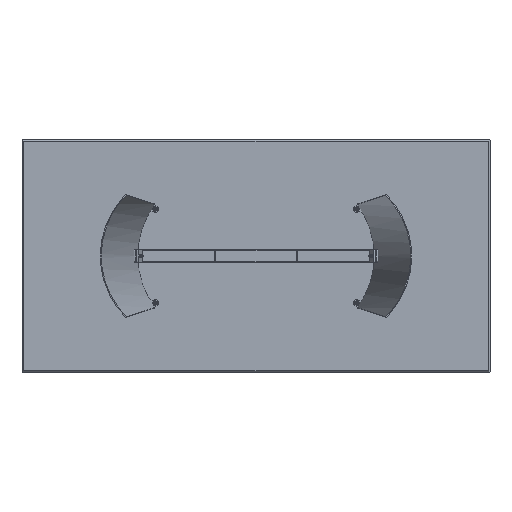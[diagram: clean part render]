
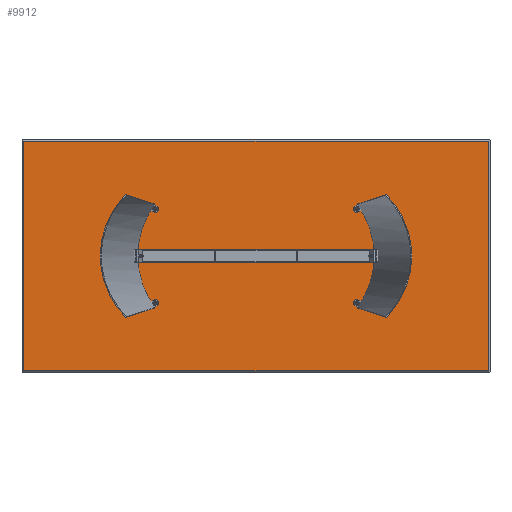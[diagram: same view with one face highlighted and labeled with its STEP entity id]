
A CAD part, front view. The second image highlights one B-rep face of the part: STEP entity #9912.
In plain terms, the highlighted planar face has unit normal (0, -1, 0).
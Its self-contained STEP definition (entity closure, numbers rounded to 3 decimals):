
#13 = VECTOR ( 'NONE', #6041, 1000. ) ;
#367 = LINE ( 'NONE', #7585, #8294 ) ;
#638 = LINE ( 'NONE', #2193, #8097 ) ;
#703 = EDGE_CURVE ( 'NONE', #9708, #7427, #367, .T. ) ;
#1024 = LINE ( 'NONE', #10224, #13 ) ;
#1065 = DIRECTION ( 'NONE',  ( 1., 0., 0. ) ) ;
#1437 = EDGE_CURVE ( 'NONE', #8087, #9708, #1024, .T. ) ;
#1741 = DIRECTION ( 'NONE',  ( 0., 1., 0. ) ) ;
#1758 = EDGE_CURVE ( 'NONE', #7427, #4459, #638, .T. ) ;
#1828 = CARTESIAN_POINT ( 'NONE',  ( -1187., 0., 587. ) ) ;
#1841 = FACE_OUTER_BOUND ( 'NONE', #10243, .T. ) ;
#2193 = CARTESIAN_POINT ( 'NONE',  ( 1187., 0., 0. ) ) ;
#2374 = ORIENTED_EDGE ( 'NONE', *, *, #703, .T. ) ;
#2647 = VECTOR ( 'NONE', #3625, 1000. ) ;
#3625 = DIRECTION ( 'NONE',  ( -1., 0., 0. ) ) ;
#4314 = CARTESIAN_POINT ( 'NONE',  ( 1187., 0., -587. ) ) ;
#4459 = VERTEX_POINT ( 'NONE', #8962 ) ;
#5026 = PLANE ( 'NONE',  #9915 ) ;
#5330 = ORIENTED_EDGE ( 'NONE', *, *, #1758, .T. ) ;
#5406 = LINE ( 'NONE', #7109, #2647 ) ;
#5489 = DIRECTION ( 'NONE',  ( 0., 0., 1. ) ) ;
#5577 = CARTESIAN_POINT ( 'NONE',  ( -1187., 0., -587. ) ) ;
#6041 = DIRECTION ( 'NONE',  ( 0., 0., -1. ) ) ;
#6815 = ORIENTED_EDGE ( 'NONE', *, *, #1437, .T. ) ;
#6862 = EDGE_CURVE ( 'NONE', #4459, #8087, #5406, .T. ) ;
#7109 = CARTESIAN_POINT ( 'NONE',  ( 0., 0., 587. ) ) ;
#7427 = VERTEX_POINT ( 'NONE', #4314 ) ;
#7514 = DIRECTION ( 'NONE',  ( 0., 0., 1. ) ) ;
#7585 = CARTESIAN_POINT ( 'NONE',  ( 0., 0., -587. ) ) ;
#8087 = VERTEX_POINT ( 'NONE', #1828 ) ;
#8097 = VECTOR ( 'NONE', #5489, 1000. ) ;
#8272 = CARTESIAN_POINT ( 'NONE',  ( 0., 0., 0. ) ) ;
#8294 = VECTOR ( 'NONE', #1065, 1000. ) ;
#8962 = CARTESIAN_POINT ( 'NONE',  ( 1187., 0., 587. ) ) ;
#8971 = ORIENTED_EDGE ( 'NONE', *, *, #6862, .T. ) ;
#9708 = VERTEX_POINT ( 'NONE', #5577 ) ;
#9912 = ADVANCED_FACE ( 'NONE', ( #1841 ), #5026, .F. ) ;
#9915 = AXIS2_PLACEMENT_3D ( 'NONE', #8272, #1741, #7514 ) ;
#10224 = CARTESIAN_POINT ( 'NONE',  ( -1187., 0., 0. ) ) ;
#10243 = EDGE_LOOP ( 'NONE', ( #5330, #8971, #6815, #2374 ) ) ;
